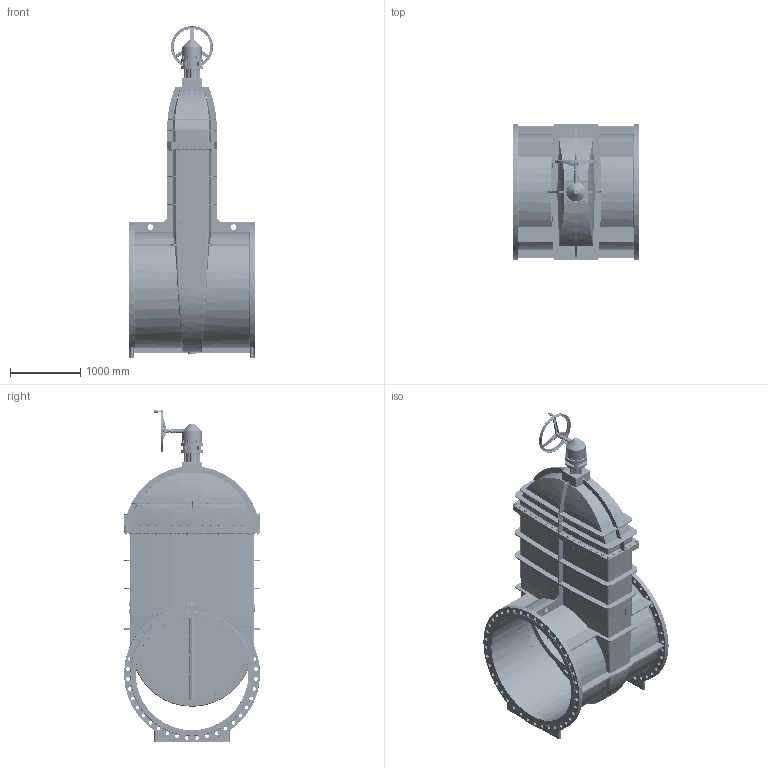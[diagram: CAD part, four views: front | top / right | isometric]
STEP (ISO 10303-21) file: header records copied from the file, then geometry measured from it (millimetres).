
FILE_DESCRIPTION(('STEP AP242'), '1');
FILE_NAME('青溻桄赅', '', ('UNSPECIFIED'), ('UNSPECIFIED'), 'C3D Converter', 'C3D Toolkit', '');
FILE_SCHEMA(('AP242_MANAGED_MODEL_BASED_3D_ENGINEERING_MIM_LF { 1 0 10303 442 1 1 4 }'));
Length unit declared in the file: millimetre
Assembly tree (291 placements, depth 2):
  (unnamed)
    (unnamed)
    (unnamed)
    (unnamed)
    (unnamed)  x2
    (unnamed)
    (unnamed)
    (unnamed)
    (unnamed)
    (unnamed)
    (unnamed)  x44
    (unnamed)  x88
    (unnamed)  x88
    (unnamed)  x44
    (unnamed)  x4
    (unnamed)  x8
    (unnamed)  x4
    (unnamed)
Bounding box: 1800 x 1941 x 4713 mm (x, y, z)
Volume: 407966943.8 mm3; surface area: 64940128 mm2
Topology: 296 solids, 297 shells, 4447 faces, 10922 edges, 7157 vertices
Faces by surface type: plane 2495, cylinder 1020, cone 584, extrusion 167, torus 102, bspline 79
Full cylindrical faces by diameter (mm): 5 x4, 6 x23, 8 x24, 10 x4, 12 x8, 13 x8, 14 x4, 16 x12, 17.294 x44, 18 x4, 20 x49, 22 x220, 24 x4, 30 x44, 34 x88, 40 x1, 50 x80, 60 x3, 63 x9, 80 x2, 106.333 x5, 108.391 x1, 126 x1, 226.056 x2, 272.126 x1, 318.196 x3, 520 x1, 530 x1, 590 x1, 600 x1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
Entity records: 92196 total; most frequent: CARTESIAN_POINT 35826, DIRECTION 9784, ORIENTED_EDGE 8895, EDGE_CURVE 4891, AXIS2_PLACEMENT_3D 3838, VERTEX_POINT 3771, EDGE_LOOP 2593, CIRCLE 2155
